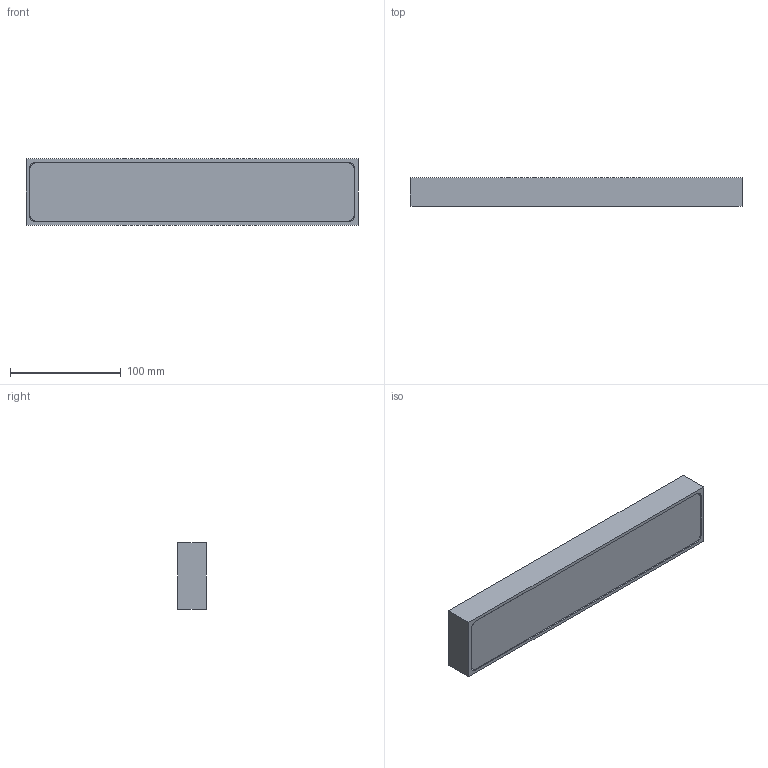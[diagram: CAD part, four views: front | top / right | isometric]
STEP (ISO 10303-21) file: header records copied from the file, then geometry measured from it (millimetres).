
FILE_DESCRIPTION(/* description */ (''),/* implementation_level */ '2;1');
FILE_NAME(/* name */ 'C:\Users\Giulia\Desktop\1749 - LINET.stp',/* time_stamp */ '2015-04-23T12:22:26+02:00',/* author */ ('Giulia'),/* organization */ (''),/* preprocessor_version */ 'ST-DEVELOPER v15.6',/* originating_system */ 'Autodesk Inventor 2015',/* authorisation */ '');
FILE_SCHEMA (('AUTOMOTIVE_DESIGN { 1 0 10303 214 3 1 1 }'));
Length unit declared in the file: centimetre
Products named in the file (1): 1749 - LINET
Bounding box: 300 x 26 x 60 mm (x, y, z)
Volume: 459003 mm3; surface area: 59159.9 mm2
Topology: 1 solids, 1 shells, 24 faces, 60 edges, 40 vertices
Faces by surface type: plane 16, cylinder 8
Entity records: 782 total; most frequent: DIRECTION 126, CARTESIAN_POINT 125, ORIENTED_EDGE 120, EDGE_CURVE 60, LINE 44, VECTOR 44, AXIS2_PLACEMENT_3D 41, VERTEX_POINT 40
